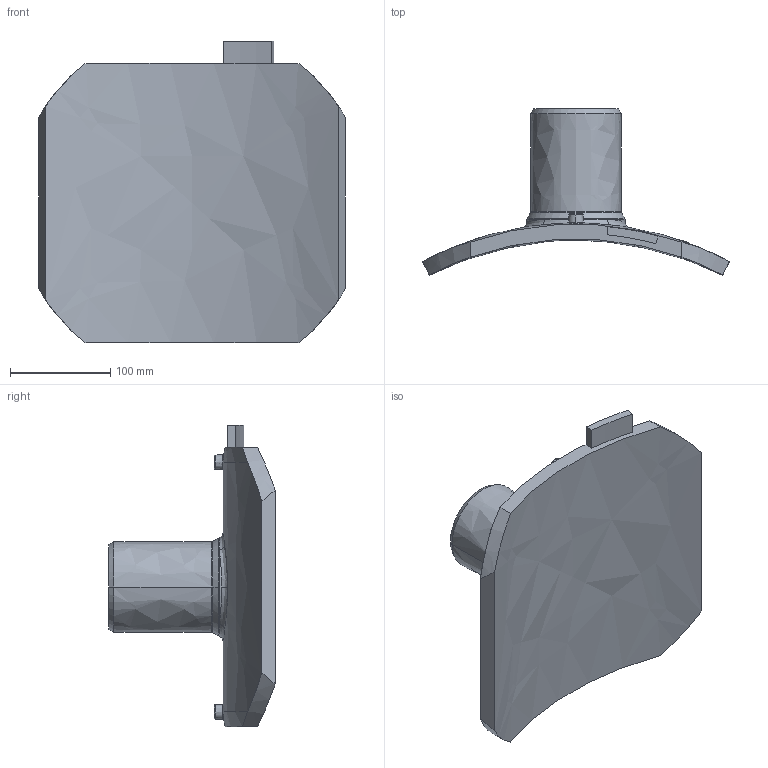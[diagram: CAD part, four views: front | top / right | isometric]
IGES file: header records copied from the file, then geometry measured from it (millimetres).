
Start section:  PTC IGES file: sa-uni_d630_90_01.igs
Global section: file name: sa-uni_d630_90_01.igs; native system: Pro/ENGINEER by Parametric Technology Corporation; preprocessor: 2011490; author: MikulicP; organization: Unknown; date: 20170207.154317; units: millimetre
Bounding box: 305.76 x 165.85 x 301 mm (x, y, z)
Surface area: 249543.6 mm2 (no closed solid volume)
Topology: 0 solids, 0 shells, 216 faces, 1070 edges, 1068 vertices
Faces by surface type: bspline 216
